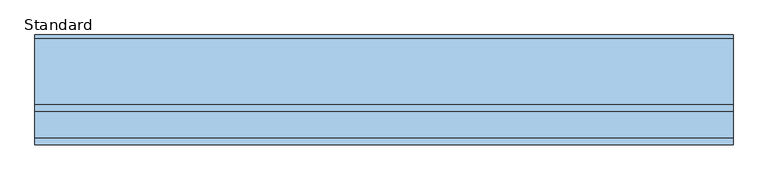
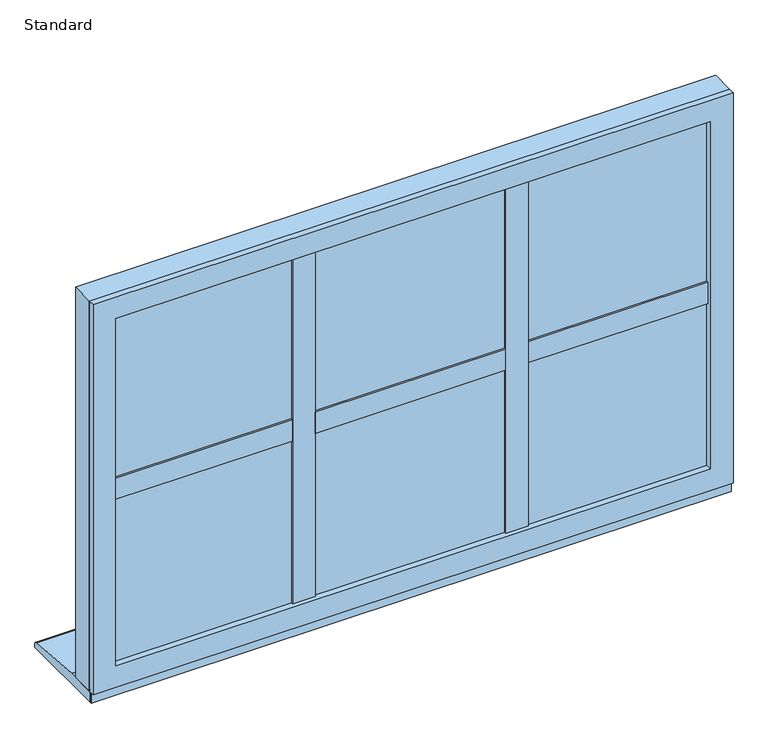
"""IFC4 building model written with IfcOpenShell, lengths in millimetres: window geometry, SMARTS_Alitherm600 : Standard."""

import ifcopenshell
import ifcopenshell.guid

model = None  # the IFC model being written
_history = None  # IfcOwnerHistory: only IFC2X3 demands one
_inside = {}  # id of a spatial element -> (the spatial element, [elements in it])
_under = {}  # id of a project, library or spatial element -> (it, [spatial elements below it])
_declared = {}  # id of a project -> (the project, [libraries it declares])
_typed = {}  # id of a type object -> (the type object, [elements of that type])
_made_of = {}  # id of a material, layer set ... -> (it, [elements and type objects made of it])


def new_model(schema):
    """Start an empty IFC model of exactly this schema.

    Asked for "IFC4X3", IfcOpenShell would pick the latest addendum, in which some entities
    have other attributes; the version numbers below select the first issue.
    IFC2X3 requires an IfcOwnerHistory on every rooted entity: one is made here for all.
    """
    global model, _history
    if schema == "IFC4X3":
        model = ifcopenshell.file(schema_version=(4, 3, 0, 0))
    else:
        model = ifcopenshell.file(schema=schema)
    _inside.clear()
    _under.clear()
    _declared.clear()
    _typed.clear()
    _made_of.clear()
    _history = None
    if model.schema == "IFC2X3":
        org = make("IfcOrganization", Name="unknown")
        user = make(
            "IfcPersonAndOrganization",
            ThePerson=make("IfcPerson", FamilyName="unknown"),
            TheOrganization=org,
        )
        app = make(
            "IfcApplication",
            ApplicationDeveloper=org,
            Version="unknown",
            ApplicationFullName="unknown",
            ApplicationIdentifier="unknown",
        )
        _history = make(
            "IfcOwnerHistory",
            OwningUser=user,
            OwningApplication=app,
            ChangeAction="ADDED",
            CreationDate=0,
        )
    return model


def make(cls, **values):
    """One entity of the class cls with the attributes given. An attribute that is None is left unset."""
    return model.create_entity(
        cls, **{name: value for name, value in values.items() if value is not None}
    )


def rooted(cls, **values):
    """An entity with a GlobalId (a new one), such as an element, a storey or a relation."""
    return make(cls, GlobalId=ifcopenshell.guid.new(), OwnerHistory=_history, **values)


def si_unit(unit_type, name, prefix=None):
    """IfcSIUnit, for example si_unit("LENGTHUNIT", "METRE", prefix="MILLI")."""
    return make("IfcSIUnit", UnitType=unit_type, Prefix=prefix, Name=name)


def assignment(units):
    """IfcUnitAssignment: the units of a project."""
    return None if units is None else make("IfcUnitAssignment", Units=units)


def point(xyz):
    """IfcCartesianPoint."""
    return None if xyz is None else make("IfcCartesianPoint", Coordinates=xyz)


def direction(xyz):
    """IfcDirection."""
    return None if xyz is None else make("IfcDirection", DirectionRatios=xyz)


def frame(location, z_axis=None, x_axis=None):
    """IfcAxis2Placement3D, a coordinate frame: its origin and axes. An axis left out is left unset."""
    return make(
        "IfcAxis2Placement3D",
        Location=point(location),
        Axis=direction(z_axis),
        RefDirection=direction(x_axis),
    )


def frame_2d(location, x_axis=None):
    """IfcAxis2Placement2D, a coordinate frame in the plane: its origin and x axis."""
    return make(
        "IfcAxis2Placement2D", Location=point(location), RefDirection=direction(x_axis)
    )


def origin():
    """The frame at (0, 0, 0) with its axes left unset."""
    return frame((0.0, 0.0, 0.0))


def place(relative_to, where):
    """IfcLocalPlacement: puts the frame where relative to a parent placement (None: the world)."""
    return make(
        "IfcLocalPlacement", PlacementRelTo=relative_to, RelativePlacement=where
    )


def context(
    kind, dimensions, precision=None, world=None, true_north=None, identifier=None
):
    """IfcGeometricRepresentationContext, for example the 3D "Model" context."""
    return make(
        "IfcGeometricRepresentationContext",
        ContextIdentifier=identifier,
        ContextType=kind,
        CoordinateSpaceDimension=dimensions,
        Precision=precision,
        WorldCoordinateSystem=world,
        TrueNorth=true_north,
    )


def project(units=None, contexts=None):
    """IfcProject with its units and contexts."""
    return rooted(
        "IfcProject",
        Name="project",
        RepresentationContexts=contexts,
        UnitsInContext=assignment(units),
    )


def spatial(cls, under=None, at=None, **own):
    """A site, building, storey or space (cls), placed at a placement, below another one or the project."""
    s = rooted(cls, ObjectPlacement=at, **own)
    if under is not None:
        _under.setdefault(under.id(), (under, []))[1].append(s)
    return s


def polyline(points):
    """IfcPolyline through the points."""
    return make("IfcPolyline", Points=[point(p) for p in points])


def circle_curve(where, radius):
    """IfcCircle in the frame where."""
    return make("IfcCircle", Position=where, Radius=radius)


def trimmed(basis, trim1, trim2, sense, master):
    """IfcTrimmedCurve: the piece of a basis curve between two trims."""
    return make(
        "IfcTrimmedCurve",
        BasisCurve=basis,
        Trim1=trim1,
        Trim2=trim2,
        SenseAgreement=sense,
        MasterRepresentation=master,
    )


def segment(curve, same_sense, transition):
    """IfcCompositeCurveSegment."""
    return make(
        "IfcCompositeCurveSegment",
        Transition=transition,
        SameSense=same_sense,
        ParentCurve=curve,
    )


def composite_curve(segments, self_intersect=None):
    """IfcCompositeCurve: segments joined end to end."""
    return make("IfcCompositeCurve", Segments=segments, SelfIntersect=self_intersect)


def outline(outer, holes=None, kind="AREA"):
    """IfcArbitraryClosedProfileDef: a profile drawn as a closed curve; with holes, ...WithVoids."""
    if holes is None:
        return make("IfcArbitraryClosedProfileDef", ProfileType=kind, OuterCurve=outer)
    return make(
        "IfcArbitraryProfileDefWithVoids",
        ProfileType=kind,
        OuterCurve=outer,
        InnerCurves=holes,
    )


def extrude(swept, where, along, depth):
    """IfcExtrudedAreaSolid: the profile swept, set in the frame where, extruded along a direction by depth."""
    return make(
        "IfcExtrudedAreaSolid",
        SweptArea=swept,
        Position=where,
        ExtrudedDirection=direction(along),
        Depth=depth,
    )


def faces_of(points, faces, orient=None, outer=None):
    """IfcFace entities. A face is a list of loops; a loop is a list of indices into points, from 0.

    orient and outer hold one flag for each loop. By default every Orientation is true, the
    first loop of a face is its IfcFaceOuterBound and the others are IfcFaceBound.
    """
    made = []
    for i, loops in enumerate(faces):
        bounds = []
        for j, loop in enumerate(loops):
            is_outer = j == 0 if outer is None else outer[i][j]
            bounds.append(
                make(
                    "IfcFaceOuterBound" if is_outer else "IfcFaceBound",
                    Bound=make("IfcPolyLoop", Polygon=[points[k] for k in loop]),
                    Orientation=True if orient is None else orient[i][j],
                )
            )
        made.append(make("IfcFace", Bounds=bounds))
    return made


def faceted_brep(points, faces, orient=None, outer=None, voids=None):
    """IfcFacetedBrep: a solid bounded by flat faces; with voids (closed shells), ...WithVoids."""
    shared = [point(p) for p in points]
    hull = make("IfcClosedShell", CfsFaces=faces_of(shared, faces, orient, outer))
    if voids is None:
        return make("IfcFacetedBrep", Outer=hull)
    return make(
        "IfcFacetedBrepWithVoids",
        Outer=hull,
        Voids=[
            make(cls, CfsFaces=faces_of(shared, fs, o, b)) for cls, fs, o, b in voids
        ],
    )


def shape(context_of_items, identifier, shape_type, items):
    """IfcShapeRepresentation: the items that make up one representation, for example the "Body"."""
    return make(
        "IfcShapeRepresentation",
        ContextOfItems=context_of_items,
        RepresentationIdentifier=identifier,
        RepresentationType=shape_type,
        Items=items,
    )


def source(mapping_origin, context_of_items, identifier, shape_type, items):
    """IfcRepresentationMap: a shape defined once, which mapped items show again and again."""
    return make(
        "IfcRepresentationMap",
        MappingOrigin=mapping_origin,
        MappedRepresentation=shape(context_of_items, identifier, shape_type, items),
    )


def transform(
    local_origin,
    x_axis=None,
    y_axis=None,
    z_axis=None,
    scale=None,
    scale2=None,
    scale3=None,
    uniform=True,
):
    """IfcCartesianTransformationOperator3D, or its non-uniform kind. x_axis, y_axis, z_axis: its Axis1, 2, 3."""
    if uniform:
        return make(
            "IfcCartesianTransformationOperator3D",
            Axis1=direction(x_axis),
            Axis2=direction(y_axis),
            LocalOrigin=point(local_origin),
            Scale=scale,
            Axis3=direction(z_axis),
        )
    return make(
        "IfcCartesianTransformationOperator3DnonUniform",
        Axis1=direction(x_axis),
        Axis2=direction(y_axis),
        LocalOrigin=point(local_origin),
        Scale=scale,
        Axis3=direction(z_axis),
        Scale2=scale2,
        Scale3=scale3,
    )


def mapped(mapping_source, mapping_target):
    """IfcMappedItem: shows the shape of a source again, moved by a transform."""
    return make(
        "IfcMappedItem", MappingSource=mapping_source, MappingTarget=mapping_target
    )


def made_of(thing, what):
    """Note that an element or type object is made of a material, layer set ...; save() writes the relation."""
    if what is not None:
        _made_of.setdefault(what.id(), (what, []))[1].append(thing)
    return thing


def element(
    cls,
    number,
    at=None,
    inside=None,
    cuts=None,
    type_object=None,
    material=None,
    context=None,
    identifier="Body",
    shape_type=None,
    held_by="IfcProductDefinitionShape",
    body=None,
    shapes=None,
    **own,
):
    """One element of the class cls, such as IfcWall. Its Tag is "e" and its number.

    at: its placement. inside: the storey or other place that contains it. cuts: it is an
    opening in that element (IfcRelVoidsElement). A single representation is given by context,
    identifier, shape_type and body (its items); several are given by shapes. held_by: the class
    of the entity that holds the representations. save() writes the other relations.
    """
    e = rooted(cls, Tag="e%d" % number, ObjectPlacement=at, **own)
    if body is not None:
        shapes = [shape(context, identifier, shape_type, body)]
    if shapes is not None:
        e.Representation = make(held_by, Representations=shapes)
    if inside is not None:
        _inside.setdefault(inside.id(), (inside, []))[1].append(e)
    if cuts is not None:
        rooted(
            "IfcRelVoidsElement", RelatingBuildingElement=cuts, RelatedOpeningElement=e
        )
    if type_object is not None:
        _typed.setdefault(type_object.id(), (type_object, []))[1].append(e)
    return made_of(e, material)


def aggregate(whole, parts):
    """IfcRelAggregates: a whole, such as a stair, and the parts it consists of."""
    return rooted("IfcRelAggregates", RelatingObject=whole, RelatedObjects=parts)


def save(model, path):
    """Write the relations noted so far, then the file.

    IfcRelAggregates (storeys below a building ...), IfcRelContainedInSpatialStructure (elements
    in a storey), IfcRelDefinesByType, IfcRelAssociatesMaterial and IfcRelDeclares: one each for
    every whole, place, type object, material and project.
    """
    for whole, parts in _under.values():
        aggregate(whole, parts)
    for where, things in _inside.values():
        rooted(
            "IfcRelContainedInSpatialStructure",
            RelatedElements=things,
            RelatingStructure=where,
        )
    for kind, things in _typed.values():
        rooted("IfcRelDefinesByType", RelatedObjects=things, RelatingType=kind)
    for what, things in _made_of.values():
        rooted("IfcRelAssociatesMaterial", RelatedObjects=things, RelatingMaterial=what)
    for by, libraries in _declared.values():
        rooted("IfcRelDeclares", RelatingContext=by, RelatedDefinitions=libraries)
    model.write(path)


def standard_a20705cd(model_context):
    return source(origin(), model_context, "Body", "SolidModel", [
        extrude(outline(polyline([(-256.0666667, 102.8298432), (-237.2666667, 102.8298432), (-237.2666667, 47.2458572), (-256.0666667, 47.2458572), (-256.0666667, 102.8298432)])), frame((0.0, 0.0, 670.8979117), z_axis=(0.0, 0.0, 1.0), x_axis=(1.0, 0.0, 0.0)), (0.0, 0.0, 1.0), 883.2041766),
        extrude(outline(polyline([(-272.568755, 47.2458572), (-220.7645784, 47.2458572), (-220.7645784, 43.2798432), (-272.568755, 43.2798432), (-272.568755, 47.2458572)])), frame((0.0, 0.0, 687.4), z_axis=(0.0, 0.0, 1.0), x_axis=(1.0, 0.0, 0.0)), (0.0, 0.0, 1.0), 850.2),
        extrude(outline(polyline([(237.2666667, 102.8298432), (256.0666667, 102.8298432), (256.0666667, 47.2458572), (237.2666667, 47.2458572), (237.2666667, 102.8298432)])), frame((0.0, 0.0, 670.8979117), z_axis=(0.0, 0.0, 1.0), x_axis=(1.0, 0.0, 0.0)), (0.0, 0.0, 1.0), 883.2041766),
        extrude(outline(polyline([(220.7645784, 47.2458572), (272.568755, 47.2458572), (272.568755, 43.2798432), (220.7645784, 43.2798432), (220.7645784, 47.2458572)])), frame((0.0, 0.0, 687.4), z_axis=(0.0, 0.0, 1.0), x_axis=(1.0, 0.0, 0.0)), (0.0, 0.0, 1.0), 850.2),
        extrude(outline(polyline([(-256.1645784, 102.8298432), (-256.1645784, 47.2458572), (-704.1020883, 47.2458572), (-704.1020883, 102.8298432), (-256.1645784, 102.8298432)])), frame((0.0, 0.0, 1103.1), z_axis=(0.0, 0.0, 1.0), x_axis=(1.0, 0.0, 0.0)), (0.0, 0.0, 1.0), 18.8),
        extrude(outline(polyline([(-272.6666667, 47.2458572), (-272.6666667, 43.2798432), (-687.6, 43.2798432), (-687.6, 47.2458572), (-272.6666667, 47.2458572)])), frame((0.0, 0.0, 1086.5979117), z_axis=(0.0, 0.0, 1.0), x_axis=(1.0, 0.0, 0.0)), (0.0, 0.0, 1.0), 51.8041766),
        extrude(outline(polyline([(237.168755, 102.8298432), (237.168755, 47.2458572), (-237.168755, 47.2458572), (-237.168755, 102.8298432), (237.168755, 102.8298432)])), frame((0.0, 0.0, 1103.1), z_axis=(0.0, 0.0, 1.0), x_axis=(1.0, 0.0, 0.0)), (0.0, 0.0, 1.0), 18.8),
        extrude(outline(polyline([(220.6666667, 47.2458572), (220.6666667, 43.2798432), (-220.6666667, 43.2798432), (-220.6666667, 47.2458572), (220.6666667, 47.2458572)])), frame((0.0, 0.0, 1086.5979117), z_axis=(0.0, 0.0, 1.0), x_axis=(1.0, 0.0, 0.0)), (0.0, 0.0, 1.0), 51.8041766),
        extrude(outline(polyline([(704.1020883, 102.8298432), (704.1020883, 47.2458572), (256.1645784, 47.2458572), (256.1645784, 102.8298432), (704.1020883, 102.8298432)])), frame((0.0, 0.0, 1103.1), z_axis=(0.0, 0.0, 1.0), x_axis=(1.0, 0.0, 0.0)), (0.0, 0.0, 1.0), 18.8),
        extrude(outline(polyline([(687.6, 47.2458572), (687.6, 43.2798432), (272.6666667, 43.2798432), (272.6666667, 47.2458572), (687.6, 47.2458572)])), frame((0.0, 0.0, 1086.5979117), z_axis=(0.0, 0.0, 1.0), x_axis=(1.0, 0.0, 0.0)), (0.0, 0.0, 1.0), 51.8041766),
        extrude(outline(polyline([(-702.6, 77.7798432), (-257.6666667, 77.7798432), (-257.6666667, 73.7798432), (-702.6, 73.7798432), (-702.6, 77.7798432)])), frame((0.0, 0.0, 672.4), z_axis=(0.0, 0.0, 1.0), x_axis=(1.0, 0.0, 0.0)), (0.0, 0.0, 1.0), 429.1),
        extrude(outline(polyline([(-702.6, 57.7798432), (-257.6666667, 57.7798432), (-257.6666667, 53.7798432), (-702.6, 53.7798432), (-702.6, 57.7798432)])), frame((0.0, 0.0, 672.4), z_axis=(0.0, 0.0, 1.0), x_axis=(1.0, 0.0, 0.0)), (0.0, 0.0, 1.0), 429.1),
        extrude(outline(polyline([(1101.5, -702.6), (672.4, -702.6), (672.4, -257.6666667), (1101.5, -257.6666667), (1101.5, -702.6)]), holes=[polyline([(1091.5, -267.6666667), (682.4, -267.6666667), (682.4, -692.6), (1091.5, -692.6), (1091.5, -267.6666667)])]), frame((0.0, 57.7798432, 0.0), z_axis=(0.0, 1.0, 0.0), x_axis=(0.0, 0.0, 1.0)), (0.0, 0.0, 1.0), 16.0),
        faceted_brep([(-699.4160653, 102.7798432, 1098.3160653), (-687.2339746, 81.6798432, 1086.1339746), (-687.2339746, 81.6798432, 687.7660254), (-699.4160653, 102.7798432, 675.5839347), (-273.0326921, 81.6798432, 687.7660254), (-260.8506014, 102.7798432, 675.5839347), (-273.0326921, 81.6798432, 1086.1339746), (-260.8506014, 102.7798432, 1098.3160653), (-256.1666667, 81.6798432, 1103.0), (-256.1666667, 102.7798432, 1103.0), (-704.1, 102.7798432, 1103.0), (-704.1, 81.6798432, 1103.0), (-704.1, 102.7798432, 670.9), (-704.1, 81.6798432, 670.9), (-256.1666667, 102.7798432, 670.9), (-256.1666667, 81.6798432, 670.9)], [[[0, 1, 2, 3]], [[3, 2, 4, 5]], [[5, 4, 6, 7]], [[7, 6, 1, 0]], [[8, 9, 10, 11]], [[11, 10, 12, 13]], [[13, 12, 14, 15]], [[9, 14, 12, 10], [0, 3, 5, 7]], [[15, 14, 9, 8]], [[11, 13, 15, 8], [6, 4, 2, 1]]]),
        extrude(outline(polyline([(-702.6, 77.7798432), (-257.6666667, 77.7798432), (-257.6666667, 73.7798432), (-702.6, 73.7798432), (-702.6, 77.7798432)])), frame((0.0, 0.0, 1123.5), z_axis=(0.0, 0.0, 1.0), x_axis=(1.0, 0.0, 0.0)), (0.0, 0.0, 1.0), 429.1),
        extrude(outline(polyline([(-702.6, 57.7798432), (-257.6666667, 57.7798432), (-257.6666667, 53.7798432), (-702.6, 53.7798432), (-702.6, 57.7798432)])), frame((0.0, 0.0, 1123.5), z_axis=(0.0, 0.0, 1.0), x_axis=(1.0, 0.0, 0.0)), (0.0, 0.0, 1.0), 429.1),
        extrude(outline(polyline([(1552.6, -702.6), (1123.5, -702.6), (1123.5, -257.6666667), (1552.6, -257.6666667), (1552.6, -702.6)]), holes=[polyline([(1542.6, -267.6666667), (1133.5, -267.6666667), (1133.5, -692.6), (1542.6, -692.6), (1542.6, -267.6666667)])]), frame((0.0, 57.7798432, 0.0), z_axis=(0.0, 1.0, 0.0), x_axis=(0.0, 0.0, 1.0)), (0.0, 0.0, 1.0), 16.0),
        faceted_brep([(-699.4160653, 102.7798432, 1549.4160653), (-687.2339746, 81.6798432, 1537.2339746), (-687.2339746, 81.6798432, 1138.8660254), (-699.4160653, 102.7798432, 1126.6839347), (-273.0326921, 81.6798432, 1138.8660254), (-260.8506014, 102.7798432, 1126.6839347), (-273.0326921, 81.6798432, 1537.2339746), (-260.8506014, 102.7798432, 1549.4160653), (-256.1666667, 81.6798432, 1554.1), (-256.1666667, 102.7798432, 1554.1), (-704.1, 102.7798432, 1554.1), (-704.1, 81.6798432, 1554.1), (-704.1, 102.7798432, 1122.0), (-704.1, 81.6798432, 1122.0), (-256.1666667, 102.7798432, 1122.0), (-256.1666667, 81.6798432, 1122.0)], [[[0, 1, 2, 3]], [[3, 2, 4, 5]], [[5, 4, 6, 7]], [[7, 6, 1, 0]], [[8, 9, 10, 11]], [[11, 10, 12, 13]], [[13, 12, 14, 15]], [[9, 14, 12, 10], [0, 3, 5, 7]], [[15, 14, 9, 8]], [[11, 13, 15, 8], [6, 4, 2, 1]]]),
        extrude(outline(polyline([(-235.6666667, 77.7798432), (235.6666667, 77.7798432), (235.6666667, 73.7798432), (-235.6666667, 73.7798432), (-235.6666667, 77.7798432)])), frame((0.0, 0.0, 672.4), z_axis=(0.0, 0.0, 1.0), x_axis=(1.0, 0.0, 0.0)), (0.0, 0.0, 1.0), 429.1),
        extrude(outline(polyline([(-235.6666667, 57.7798432), (235.6666667, 57.7798432), (235.6666667, 53.7798432), (-235.6666667, 53.7798432), (-235.6666667, 57.7798432)])), frame((0.0, 0.0, 672.4), z_axis=(0.0, 0.0, 1.0), x_axis=(1.0, 0.0, 0.0)), (0.0, 0.0, 1.0), 429.1),
        extrude(outline(polyline([(1101.5, -235.6666667), (672.4, -235.6666667), (672.4, 235.6666667), (1101.5, 235.6666667), (1101.5, -235.6666667)]), holes=[polyline([(1091.5, 225.6666667), (682.4, 225.6666667), (682.4, -225.6666667), (1091.5, -225.6666667), (1091.5, 225.6666667)])]), frame((0.0, 57.7798432, 0.0), z_axis=(0.0, 1.0, 0.0), x_axis=(0.0, 0.0, 1.0)), (0.0, 0.0, 1.0), 16.0),
        faceted_brep([(-232.4827319, 102.7798432, 1098.3160653), (-220.3006413, 81.6798432, 1086.1339746), (-220.3006413, 81.6798432, 687.7660254), (-232.4827319, 102.7798432, 675.5839347), (220.3006413, 81.6798432, 687.7660254), (232.4827319, 102.7798432, 675.5839347), (220.3006413, 81.6798432, 1086.1339746), (232.4827319, 102.7798432, 1098.3160653), (237.1666667, 81.6798432, 1103.0), (237.1666667, 102.7798432, 1103.0), (-237.1666667, 102.7798432, 1103.0), (-237.1666667, 81.6798432, 1103.0), (-237.1666667, 102.7798432, 670.9), (-237.1666667, 81.6798432, 670.9), (237.1666667, 102.7798432, 670.9), (237.1666667, 81.6798432, 670.9)], [[[0, 1, 2, 3]], [[3, 2, 4, 5]], [[5, 4, 6, 7]], [[7, 6, 1, 0]], [[8, 9, 10, 11]], [[11, 10, 12, 13]], [[13, 12, 14, 15]], [[9, 14, 12, 10], [0, 3, 5, 7]], [[15, 14, 9, 8]], [[11, 13, 15, 8], [6, 4, 2, 1]]]),
        extrude(outline(polyline([(-235.6666667, 77.7798432), (235.6666667, 77.7798432), (235.6666667, 73.7798432), (-235.6666667, 73.7798432), (-235.6666667, 77.7798432)])), frame((0.0, 0.0, 1123.5), z_axis=(0.0, 0.0, 1.0), x_axis=(1.0, 0.0, 0.0)), (0.0, 0.0, 1.0), 429.1),
        extrude(outline(polyline([(-235.6666667, 57.7798432), (235.6666667, 57.7798432), (235.6666667, 53.7798432), (-235.6666667, 53.7798432), (-235.6666667, 57.7798432)])), frame((0.0, 0.0, 1123.5), z_axis=(0.0, 0.0, 1.0), x_axis=(1.0, 0.0, 0.0)), (0.0, 0.0, 1.0), 429.1),
        extrude(outline(polyline([(1552.6, -235.6666667), (1123.5, -235.6666667), (1123.5, 235.6666667), (1552.6, 235.6666667), (1552.6, -235.6666667)]), holes=[polyline([(1542.6, 225.6666667), (1133.5, 225.6666667), (1133.5, -225.6666667), (1542.6, -225.6666667), (1542.6, 225.6666667)])]), frame((0.0, 57.7798432, 0.0), z_axis=(0.0, 1.0, 0.0), x_axis=(0.0, 0.0, 1.0)), (0.0, 0.0, 1.0), 16.0),
        faceted_brep([(-232.4827319, 102.7798432, 1549.4160653), (-220.3006413, 81.6798432, 1537.2339746), (-220.3006413, 81.6798432, 1138.8660254), (-232.4827319, 102.7798432, 1126.6839347), (220.3006413, 81.6798432, 1138.8660254), (232.4827319, 102.7798432, 1126.6839347), (220.3006413, 81.6798432, 1537.2339746), (232.4827319, 102.7798432, 1549.4160653), (237.1666667, 81.6798432, 1554.1), (237.1666667, 102.7798432, 1554.1), (-237.1666667, 102.7798432, 1554.1), (-237.1666667, 81.6798432, 1554.1), (-237.1666667, 102.7798432, 1122.0), (-237.1666667, 81.6798432, 1122.0), (237.1666667, 102.7798432, 1122.0), (237.1666667, 81.6798432, 1122.0)], [[[0, 1, 2, 3]], [[3, 2, 4, 5]], [[5, 4, 6, 7]], [[7, 6, 1, 0]], [[8, 9, 10, 11]], [[11, 10, 12, 13]], [[13, 12, 14, 15]], [[9, 14, 12, 10], [0, 3, 5, 7]], [[15, 14, 9, 8]], [[11, 13, 15, 8], [6, 4, 2, 1]]]),
        extrude(outline(polyline([(257.6666667, 77.7798432), (702.6, 77.7798432), (702.6, 73.7798432), (257.6666667, 73.7798432), (257.6666667, 77.7798432)])), frame((0.0, 0.0, 672.4), z_axis=(0.0, 0.0, 1.0), x_axis=(1.0, 0.0, 0.0)), (0.0, 0.0, 1.0), 429.1),
        extrude(outline(polyline([(257.6666667, 57.7798432), (702.6, 57.7798432), (702.6, 53.7798432), (257.6666667, 53.7798432), (257.6666667, 57.7798432)])), frame((0.0, 0.0, 672.4), z_axis=(0.0, 0.0, 1.0), x_axis=(1.0, 0.0, 0.0)), (0.0, 0.0, 1.0), 429.1),
        extrude(outline(polyline([(1101.5, 257.6666667), (672.4, 257.6666667), (672.4, 702.6), (1101.5, 702.6), (1101.5, 257.6666667)]), holes=[polyline([(1091.5, 692.6), (682.4, 692.6), (682.4, 267.6666667), (1091.5, 267.6666667), (1091.5, 692.6)])]), frame((0.0, 57.7798432, 0.0), z_axis=(0.0, 1.0, 0.0), x_axis=(0.0, 0.0, 1.0)), (0.0, 0.0, 1.0), 16.0),
        faceted_brep([(260.8506014, 102.7798432, 1098.3160653), (273.0326921, 81.6798432, 1086.1339746), (273.0326921, 81.6798432, 687.7660254), (260.8506014, 102.7798432, 675.5839347), (687.2339746, 81.6798432, 687.7660254), (699.4160653, 102.7798432, 675.5839347), (687.2339746, 81.6798432, 1086.1339746), (699.4160653, 102.7798432, 1098.3160653), (704.1, 81.6798432, 1103.0), (704.1, 102.7798432, 1103.0), (256.1666667, 102.7798432, 1103.0), (256.1666667, 81.6798432, 1103.0), (256.1666667, 102.7798432, 670.9), (256.1666667, 81.6798432, 670.9), (704.1, 102.7798432, 670.9), (704.1, 81.6798432, 670.9)], [[[0, 1, 2, 3]], [[3, 2, 4, 5]], [[5, 4, 6, 7]], [[7, 6, 1, 0]], [[8, 9, 10, 11]], [[11, 10, 12, 13]], [[13, 12, 14, 15]], [[9, 14, 12, 10], [0, 3, 5, 7]], [[15, 14, 9, 8]], [[11, 13, 15, 8], [6, 4, 2, 1]]]),
        extrude(outline(polyline([(1590.0, 740.0), (1590.0, -740.0), (635.0, -740.0), (635.0, 740.0), (1590.0, 740.0)]), holes=[polyline([(670.85, 704.15), (670.85, -704.15), (1554.15, -704.15), (1554.15, 704.15), (670.85, 704.15)])]), frame((0.0, 47.2798427, 0.0), z_axis=(0.0, 1.0, 0.0), x_axis=(0.0, 0.0, 1.0)), (0.0, 0.0, 1.0), 55.5500006),
        extrude(outline(polyline([(1590.0, 740.0), (1590.0, -740.0), (635.0, -740.0), (635.0, 740.0), (1590.0, 740.0)]), holes=[polyline([(687.35, 687.65), (687.35, -687.65), (1537.65, -687.65), (1537.65, 687.65), (687.35, 687.65)])]), frame((0.0, 32.8298432, 0.0), z_axis=(0.0, 1.0, 0.0), x_axis=(0.0, 0.0, 1.0)), (0.0, 0.0, 1.0), 14.4499994),
        extrude(outline(polyline([(257.6666667, 77.7798432), (702.6, 77.7798432), (702.6, 73.7798432), (257.6666667, 73.7798432), (257.6666667, 77.7798432)])), frame((0.0, 0.0, 1123.5), z_axis=(0.0, 0.0, 1.0), x_axis=(1.0, 0.0, 0.0)), (0.0, 0.0, 1.0), 429.1),
        extrude(outline(polyline([(257.6666667, 57.7798432), (702.6, 57.7798432), (702.6, 53.7798432), (257.6666667, 53.7798432), (257.6666667, 57.7798432)])), frame((0.0, 0.0, 1123.5), z_axis=(0.0, 0.0, 1.0), x_axis=(1.0, 0.0, 0.0)), (0.0, 0.0, 1.0), 429.1),
        extrude(outline(polyline([(1552.6, 257.6666667), (1123.5, 257.6666667), (1123.5, 702.6), (1552.6, 702.6), (1552.6, 257.6666667)]), holes=[polyline([(1542.6, 692.6), (1133.5, 692.6), (1133.5, 267.6666667), (1542.6, 267.6666667), (1542.6, 692.6)])]), frame((0.0, 57.7798432, 0.0), z_axis=(0.0, 1.0, 0.0), x_axis=(0.0, 0.0, 1.0)), (0.0, 0.0, 1.0), 16.0),
        faceted_brep([(260.8506014, 102.7798432, 1549.4160653), (273.0326921, 81.6798432, 1537.2339746), (273.0326921, 81.6798432, 1138.8660254), (260.8506014, 102.7798432, 1126.6839347), (687.2339746, 81.6798432, 1138.8660254), (699.4160653, 102.7798432, 1126.6839347), (687.2339746, 81.6798432, 1537.2339746), (699.4160653, 102.7798432, 1549.4160653), (704.1, 81.6798432, 1554.1), (704.1, 102.7798432, 1554.1), (256.1666667, 102.7798432, 1554.1), (256.1666667, 81.6798432, 1554.1), (256.1666667, 102.7798432, 1122.0), (256.1666667, 81.6798432, 1122.0), (704.1, 102.7798432, 1122.0), (704.1, 81.6798432, 1122.0)], [[[0, 1, 2, 3]], [[3, 2, 4, 5]], [[5, 4, 6, 7]], [[7, 6, 1, 0]], [[8, 9, 10, 11]], [[11, 10, 12, 13]], [[13, 12, 14, 15]], [[9, 14, 12, 10], [0, 3, 5, 7]], [[15, 14, 9, 8]], [[11, 13, 15, 8], [6, 4, 2, 1]]]),
        extrude(outline(polyline([(740.0, 43.2798432), (740.0, 40.7798432), (-740.0, 40.7798432), (-740.0, 43.2798432), (740.0, 43.2798432)])), frame((0.0, 0.0, 610.0), z_axis=(0.0, 0.0, 1.0), x_axis=(1.0, 0.0, 0.0)), (0.0, 0.0, 1.0), 31.0),
        extrude(outline(composite_curve([segment(polyline([(265.7798432, 610.0), (43.2798432, 610.0), (43.2798432, 635.0), (118.7798432, 635.0), (258.4770891, 625.9276664)]), True, "CONTINUOUS"), segment(trimmed(circle_curve(frame_2d((257.7798432, 617.9581088)), 8.0), [point((258.4770891, 625.9276664))], [point((265.7798432, 617.9581088))], False, "CARTESIAN"), True, "CONTINUOUS"), segment(polyline([(265.7798432, 617.9581088), (265.7798432, 610.0)]), True, "CONTINUOUS")], self_intersect=False)), frame((-740.0, 0.0, 0.0), z_axis=(1.0, 0.0, 0.0), x_axis=(0.0, 1.0, 0.0)), (0.0, 0.0, 1.0), 1480.0),
    ])


if __name__ == "__main__":
    model = new_model("IFC4")
    model_context = context("Model", 3, world=origin())
    ifc_project = project(units=[si_unit("LENGTHUNIT", "METRE", prefix="MILLI")], contexts=[model_context])
    site = spatial("IfcSite", under=ifc_project)
    building = spatial("IfcBuilding", under=site)
    placement = place(None, origin())
    standard_shape = standard_a20705cd(model_context)
    element("IfcWindow", 1, ObjectType="SMARTS_Alitherm600 : Standard", at=placement, inside=building, context=model_context, shape_type="MappedRepresentation", body=[
        mapped(standard_shape, transform((0.0, 0.0, 0.0), x_axis=(1.0, 0.0, 0.0), y_axis=(0.0, 1.0, 0.0), z_axis=(0.0, 0.0, 1.0))),
    ])
    save(model, "model.ifc")
